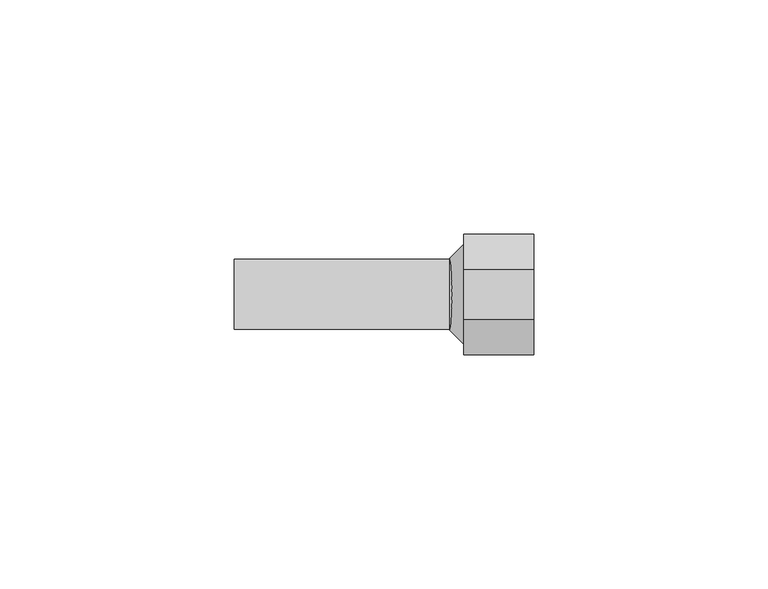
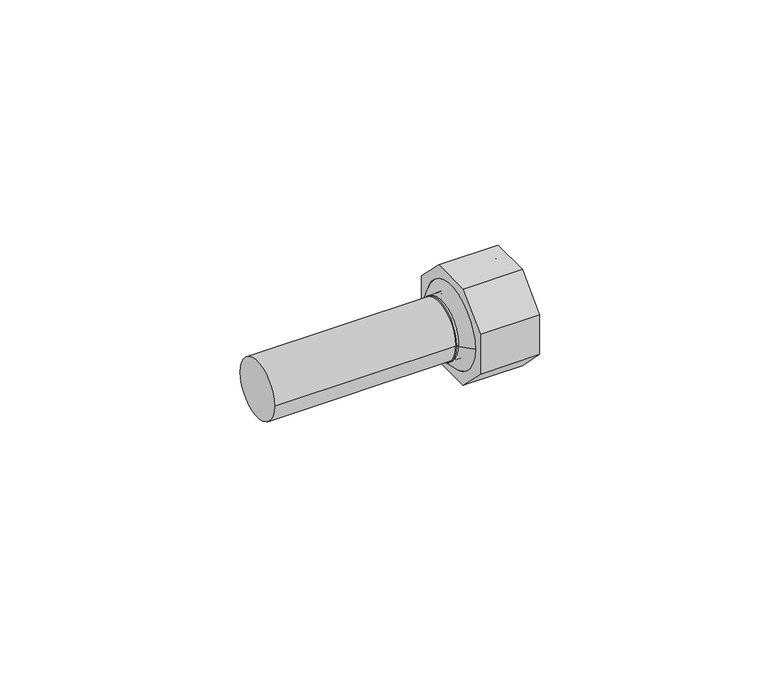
"""IFC4 building model written with IfcOpenShell, lengths in millimetres: pipe fitting geometry, NLRS_50_PIF_UN_Geberit Mapress overgang met klemring-schroefverbinding voor ribbelbuizen, NPW, insteekeinde_PRO_144536 : DN12-25 / d15-28 - OD."""

from ifc_helpers import new_model, si_unit, point, frame, origin, origin_2d, place, context, project, spatial, polyline, circle_curve, trimmed, segment, composite_curve, outline, extrude, source, transform, mapped, element, save
from ifc_brep_helpers import plane_surface, revolved_surface, advanced_brep


def pipe_fitting_a9847738(model_context):
    return source(origin(), model_context, "Body", "SolidModel", [
        extrude(outline(composite_curve([segment(trimmed(circle_curve(origin_2d(), 7.65), [point((-7.65, 0.0))], [point((7.65, 0.0))], False, "CARTESIAN"), True, "CONTINUOUS"), segment(trimmed(circle_curve(origin_2d(), 7.65), [point((7.65, 0.0))], [point((-7.65, 0.0))], False, "CARTESIAN"), True, "CONTINUOUS")], self_intersect=False), holes=[composite_curve([segment(trimmed(circle_curve(origin_2d(), 7.15), [point((-7.15, 0.0))], [point((7.15, 0.0))], True, "CARTESIAN"), True, "CONTINUOUS"), segment(trimmed(circle_curve(origin_2d(), 7.15), [point((7.15, 0.0))], [point((-7.15, 0.0))], True, "CARTESIAN"), True, "CONTINUOUS")], self_intersect=False)]), frame((-0.25, 0.0, 0.0), z_axis=(1.0, 0.0, 0.0), x_axis=(0.0, 1.0, 0.0)), (0.0, 0.0, 1.0), 3.0),
        advanced_brep(
        [(17.75, 12.8556872, 5.325), (17.75, 5.325, 12.8556872), (17.75, -5.325, 12.8556872), (17.75, -12.8556872, 5.325), (17.75, -12.8556872, -5.325), (17.75, -5.325, -12.8556872), (17.75, 5.325, -12.8556872), (17.75, 12.8556872, -5.325), (17.75, -10.65, 0.0), (17.75, 10.65, 0.0), (2.75, 12.8556872, 5.325), (2.75, 12.8556872, -5.325), (2.75, 5.325, -12.8556872), (2.75, -5.325, -12.8556872), (2.75, -12.8556872, -5.325), (2.75, -12.8556872, 5.325), (2.75, -5.325, 12.8556872), (2.75, 5.325, 12.8556872), (2.75, -10.6788231, 0.0), (2.75, 10.6788231, 0.0), (2.75, -10.65, 0.0), (2.75, 10.65, 0.0), (2.75, -7.6788231, 0.0), (2.75, 7.6788231, 0.0), (-0.25, -7.6788231, 0.0), (-0.25, 7.6788231, 0.0)],
        [
            (0, 1),
            (1, 2),
            (2, 3),
            (3, 4),
            (4, 5),
            (5, 6),
            (6, 7),
            (7, 0),
            (8, 9, circle_curve(frame((17.75, 0.0, 0.0), z_axis=(-1.0, 0.0, 0.0), x_axis=(0.0, 1.0, 0.0)), 10.65)),
            (9, 8, circle_curve(frame((17.75, 0.0, 0.0), z_axis=(-1.0, 0.0, 0.0), x_axis=(0.0, 1.0, 0.0)), 10.65)),
            (10, 11),
            (11, 12),
            (12, 13),
            (13, 14),
            (14, 15),
            (15, 16),
            (16, 17),
            (17, 10),
            (18, 19, circle_curve(frame((2.75, 0.0, 0.0), z_axis=(1.0, 0.0, 0.0), x_axis=(0.0, 1.0, 0.0)), 10.6788231)),
            (19, 18, circle_curve(frame((2.75, 0.0, 0.0), z_axis=(1.0, 0.0, 0.0), x_axis=(0.0, -1.0, 0.0)), 10.6788231)),
            (8, 20),
            (20, 21, circle_curve(frame((2.75, 0.0, 0.0), z_axis=(-1.0, 0.0, 0.0), x_axis=(0.0, 1.0, 0.0)), 10.65)),
            (21, 9),
            (21, 20, circle_curve(frame((2.75, 0.0, 0.0), z_axis=(-1.0, 0.0, 0.0), x_axis=(0.0, 1.0, 0.0)), 10.65)),
            (0, 10),
            (17, 1),
            (16, 2),
            (15, 3),
            (14, 4),
            (13, 5),
            (12, 6),
            (11, 7),
            (22, 23, circle_curve(frame((2.75, 0.0, 0.0), z_axis=(-1.0, 0.0, 0.0), x_axis=(0.0, -1.0, 0.0)), 7.6788231)),
            (23, 22, circle_curve(frame((2.75, 0.0, 0.0), z_axis=(-1.0, 0.0, 0.0), x_axis=(0.0, 1.0, 0.0)), 7.6788231)),
            (24, 25, circle_curve(frame((-0.25, 0.0, 0.0), z_axis=(1.0, 0.0, 0.0), x_axis=(0.0, 1.0, 0.0)), 7.6788231)),
            (25, 19),
            (18, 24),
            (23, 25),
            (24, 22),
            (25, 24, circle_curve(frame((-0.25, 0.0, 0.0), z_axis=(1.0, 0.0, 0.0), x_axis=(0.0, -1.0, 0.0)), 7.6788231)),
        ],
        [
            plane_surface(frame((17.75, 10.65, 0.0), z_axis=(1.0, 0.0, 0.0), x_axis=(0.0, 0.0, -1.0))),
            plane_surface(frame((2.75, 10.65, 0.0), z_axis=(-1.0, 0.0, 0.0), x_axis=(0.0, 0.0, 1.0))),
            revolved_surface(polyline([(2.75, 10.65, 0.0), (17.75, 10.65, 0.0)]), (2.75, 0.0, 0.0), (-1.0, 0.0, 0.0)),
            plane_surface(frame((17.75, 12.8556872, 5.325), z_axis=(0.0, 0.7071067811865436, 0.7071067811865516), x_axis=(-1.0, 0.0, 0.0))),
            plane_surface(frame((17.75, 5.325, 12.8556872), z_axis=(0.0, 0.0, 1.0), x_axis=(-1.0, 0.0, 0.0))),
            plane_surface(frame((17.75, -5.325, 12.8556872), z_axis=(0.0, -0.7071067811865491, 0.7071067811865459), x_axis=(-1.0, 0.0, 0.0))),
            plane_surface(frame((17.75, -12.8556872, 5.325), z_axis=(0.0, -1.0, 0.0), x_axis=(-1.0, 0.0, 0.0))),
            plane_surface(frame((17.75, -12.8556872, -5.325), z_axis=(0.0, -0.7071067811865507, -0.7071067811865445), x_axis=(-1.0, 0.0, 0.0))),
            plane_surface(frame((17.75, -5.325, -12.8556872), z_axis=(0.0, 0.0, -1.0), x_axis=(-1.0, 0.0, 0.0))),
            plane_surface(frame((17.75, 5.325, -12.8556872), z_axis=(0.0, 0.7071067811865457, -0.7071067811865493), x_axis=(-1.0, 0.0, 0.0))),
            plane_surface(frame((17.75, 12.8556872, -5.325), z_axis=(0.0, 1.0, 0.0), x_axis=(-1.0, 0.0, 0.0))),
            plane_surface(frame((2.75, 0.0, 0.0), z_axis=(1.0, 0.0, 0.0), x_axis=(0.0, -1.0, 0.0))),
            revolved_surface(polyline([(2.75, 10.6788231, 0.0), (-0.25, 7.6788231, 0.0)]), (2.75, 0.0, 0.0), (-1.0, 0.0, 0.0)),
            revolved_surface(polyline([(-0.25, 7.6788231, 0.0), (2.75, 7.6788231, 0.0)]), (2.75, 0.0, 0.0), (-1.0, 0.0, 0.0)),
            revolved_surface(polyline([(2.75, -10.6788231, 0.0), (-0.25, -7.6788231, 0.0)]), (2.75, 0.0, 0.0), (-1.0, 0.0, 0.0)),
            revolved_surface(polyline([(-0.25, -7.6788231, 0.0), (2.75, -7.6788231, 0.0)]), (2.75, 0.0, 0.0), (-1.0, 0.0, 0.0)),
        ],
        [
            (0, [[1, 2, 3, 4, 5, 6, 7, 8], [9, 10]]),
            (1, [[11, 12, 13, 14, 15, 16, 17, 18], [19, 20]]),
            (2, [[-9, 21, 22, 23]]),
            (2, [[-10, -23, 24, -21]]),
            (3, [[-1, 25, -18, 26]]),
            (4, [[-2, -26, -17, 27]]),
            (5, [[-3, -27, -16, 28]]),
            (6, [[-4, -28, -15, 29]]),
            (7, [[-5, -29, -14, 30]]),
            (8, [[-6, -30, -13, 31]]),
            (9, [[-7, -31, -12, 32]]),
            (10, [[-8, -32, -11, -25]]),
            (11, [[-22, -24], [33, 34]]),
            (12, [[35, 36, -19, 37]]),
            (13, [[-34, 38, -35, 39]]),
            (14, [[-36, 40, -37, -20]]),
            (15, [[-33, -39, -40, -38]]),
        ],
    ),
        extrude(outline(composite_curve([segment(trimmed(circle_curve(origin_2d(), 7.5), [point((-7.5, 0.0))], [point((7.5, 0.0))], False, "CARTESIAN"), True, "CONTINUOUS"), segment(trimmed(circle_curve(origin_2d(), 7.5), [point((7.5, 0.0))], [point((-7.5, 0.0))], False, "CARTESIAN"), True, "CONTINUOUS")], self_intersect=False)), frame((-46.25, 0.0, 0.0), z_axis=(1.0, 0.0, 0.0), x_axis=(0.0, 1.0, 0.0)), (0.0, 0.0, 1.0), 46.25),
    ])


if __name__ == "__main__":
    model = new_model("IFC4")
    model_context = context("Model", 3, world=origin())
    ifc_project = project(units=[si_unit("LENGTHUNIT", "METRE", prefix="MILLI")], contexts=[model_context])
    site = spatial("IfcSite", under=ifc_project)
    building = spatial("IfcBuilding", under=site)
    placement = place(None, origin())
    pipe_fitting_shape = pipe_fitting_a9847738(model_context)
    element("IfcPipeFitting", 1, ObjectType="NLRS_50_PIF_UN_Geberit Mapress overgang met klemring-schroefverbinding voor ribbelbuizen, NPW, insteekeinde_PRO_144536 : DN12-25 / d15-28 - OD", at=placement, inside=building, context=model_context, shape_type="MappedRepresentation", body=[
        mapped(pipe_fitting_shape, transform((0.0, 0.0, 0.0), x_axis=(1.0, 0.0, 0.0), y_axis=(0.0, 1.0, 0.0), z_axis=(0.0, 0.0, 1.0))),
    ])
    save(model, "model.ifc")
